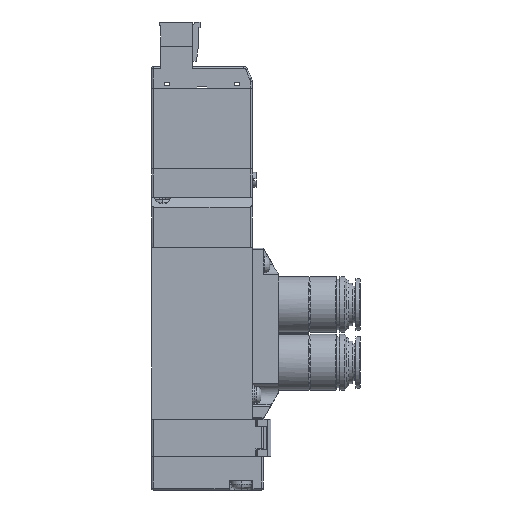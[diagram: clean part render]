
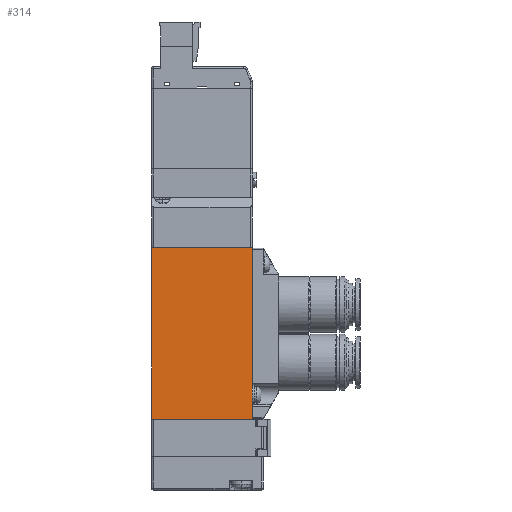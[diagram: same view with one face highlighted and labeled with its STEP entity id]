
A CAD part, left-side view. The second image highlights one B-rep face of the part: STEP entity #314.
In plain terms, the highlighted planar face has unit normal (-1, 0, 0).
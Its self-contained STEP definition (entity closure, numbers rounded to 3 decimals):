
#314=ADVANCED_FACE('',(#934),#933,.T.);
#933=PLANE('',#5527);
#934=FACE_OUTER_BOUND('',#5528,.T.);
#5524=CARTESIAN_POINT('',(-7.5,-29.7,-4.6));
#5525=DIRECTION('',(-1.,0.,0.));
#5526=DIRECTION('',(0.,0.,1.));
#5527=AXIS2_PLACEMENT_3D('',#5524,#5525,#5526);
#5528=EDGE_LOOP('',(#8633,#8634,#8635,#8636,#8637,#8638));
#8633=ORIENTED_EDGE('',*,*,#10955,.F.);
#8634=ORIENTED_EDGE('',*,*,#10956,.F.);
#8635=ORIENTED_EDGE('',*,*,#10957,.T.);
#8636=ORIENTED_EDGE('',*,*,#10952,.T.);
#8637=ORIENTED_EDGE('',*,*,#10958,.F.);
#8638=ORIENTED_EDGE('',*,*,#10893,.T.);
#10893=EDGE_CURVE('',#12118,#12119,#12120,.T.);
#10952=EDGE_CURVE('',#12524,#12516,#12525,.T.);
#10955=EDGE_CURVE('',#12544,#12119,#12545,.T.);
#10956=EDGE_CURVE('',#12551,#12544,#12552,.T.);
#10957=EDGE_CURVE('',#12551,#12524,#12558,.T.);
#10958=EDGE_CURVE('',#12118,#12516,#12564,.T.);
#12118=VERTEX_POINT('',#19830);
#12119=VERTEX_POINT('',#19831);
#12120=LINE('',#19832,#19833);
#12516=VERTEX_POINT('',#20055);
#12524=VERTEX_POINT('',#20060);
#12525=LINE('',#20061,#20062);
#12544=VERTEX_POINT('',#20071);
#12545=LINE('',#20072,#20073);
#12551=VERTEX_POINT('',#20075);
#12552=LINE('',#20076,#20077);
#12558=LINE('',#20079,#20080);
#12564=LINE('',#20082,#20083);
#19830=CARTESIAN_POINT('',(-7.5,-27.,4.839));
#19831=CARTESIAN_POINT('',(-7.5,-27.,8.161));
#19832=CARTESIAN_POINT('',(-7.5,-27.,4.839));
#19833=VECTOR('',#19834,3.323);
#19834=DIRECTION('',(0.,0.,1.));
#20055=CARTESIAN_POINT('',(-7.5,-27.,0.));
#20060=CARTESIAN_POINT('',(-7.5,0.,0.));
#20061=CARTESIAN_POINT('',(-7.5,0.,0.));
#20062=VECTOR('',#20063,27.);
#20063=DIRECTION('',(0.,-1.,0.));
#20071=CARTESIAN_POINT('',(-7.5,-27.,46.));
#20072=CARTESIAN_POINT('',(-7.5,-27.,46.));
#20073=VECTOR('',#20074,37.839);
#20074=DIRECTION('',(0.,0.,-1.));
#20075=CARTESIAN_POINT('',(-7.5,0.,46.));
#20076=CARTESIAN_POINT('',(-7.5,0.,46.));
#20077=VECTOR('',#20078,27.);
#20078=DIRECTION('',(0.,-1.,0.));
#20079=CARTESIAN_POINT('',(-7.5,0.,46.));
#20080=VECTOR('',#20081,46.);
#20081=DIRECTION('',(0.,0.,-1.));
#20082=CARTESIAN_POINT('',(-7.5,-27.,4.839));
#20083=VECTOR('',#20084,4.839);
#20084=DIRECTION('',(0.,0.,-1.));
